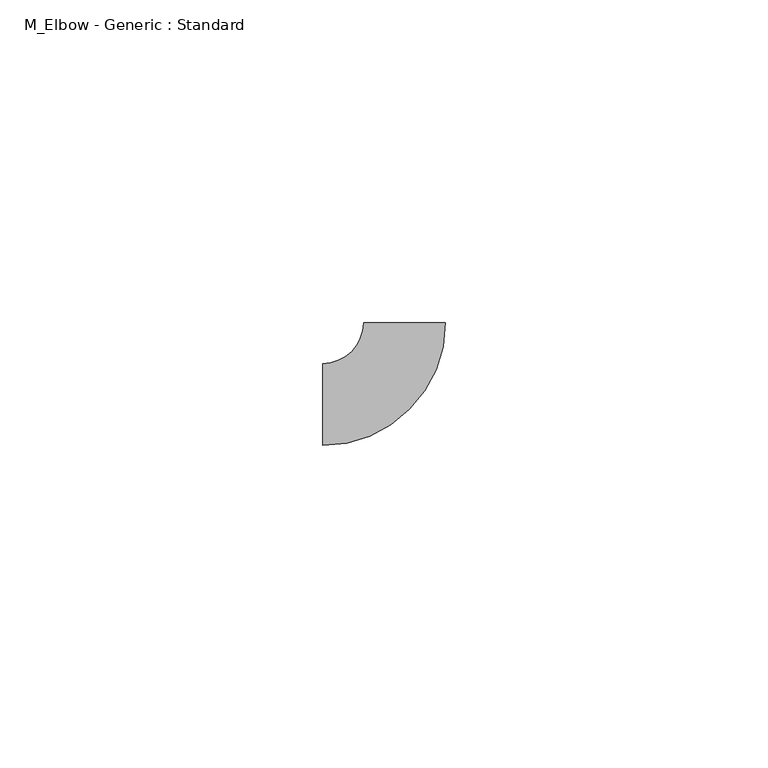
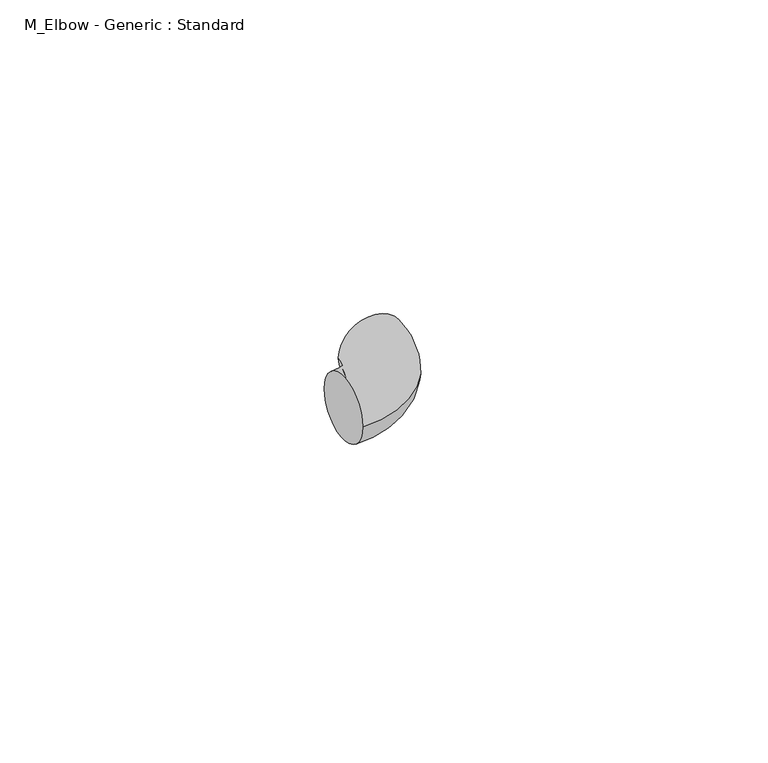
"""IFC4 building model written with IfcOpenShell, lengths in millimetres: pipe fitting geometry, M_Elbow - Generic : Standard."""

from ifc_helpers import new_model, si_unit, point, frame, origin, place, context, project, spatial, circle_curve, ellipse_curve, trimmed, source, transform, mapped, element, save
from ifc_brep_helpers import plane_surface, revolved_surface, advanced_brep


def m_elbow_generic_standard_f0c60a04(model_context):
    return source(origin(), model_context, "Body", "AdvancedBrep", [
        advanced_brep(
        [(-12.6875, -6.3375, 0.0), (-12.6875, 6.3375, 0.0), (6.3375, 12.6875, 0.0), (-6.3375, 12.6875, 0.0)],
        [
            (0, 1, circle_curve(frame((-12.6875, 0.0, 0.0), z_axis=(-1.0, 0.0, 0.0), x_axis=(0.0, 1.0, 0.0)), 6.3375)),
            (1, 0, circle_curve(frame((-12.6875, 0.0, 0.0), z_axis=(-1.0, 0.0, 0.0), x_axis=(0.0, 1.0, 0.0)), 6.3375)),
            (2, 3, circle_curve(frame((0.0, 12.6875, 0.0), z_axis=(0.0, 1.0, 0.0), x_axis=(-1.0, 0.0, 0.0)), 6.3375)),
            (3, 2, circle_curve(frame((0.0, 12.6875, 0.0), z_axis=(0.0, 1.0, 0.0), x_axis=(-1.0, 0.0, 0.0)), 6.3375)),
            (3, 1, circle_curve(frame((-12.6875, 12.6875, 0.0), z_axis=(0.0, 0.0, -1.0), x_axis=(0.0, -1.0, 0.0)), 6.35)),
            (0, 2, circle_curve(frame((-12.6875, 12.6875, 0.0), z_axis=(0.0, 0.0, 1.0), x_axis=(0.0, -1.0, 0.0)), 19.025)),
        ],
        [
            plane_surface(frame((-12.6875, 0.0, 0.0), z_axis=(-1.0, 0.0, 0.0), x_axis=(0.0, 0.0, 1.0))),
            plane_surface(frame((0.0, 12.6875, 0.0), z_axis=(0.0, 1.0, 0.0), x_axis=(0.0, 0.0, 1.0))),
            revolved_surface(trimmed(ellipse_curve(frame((-12.6875, 0.0, 0.0), z_axis=(-1.0, 0.0, 0.0), x_axis=(0.0, 1.0, 0.0)), 6.3375, 6.3375), [point((-12.6875, -6.3375, 0.0))], [point((-12.6875, 6.3375, 0.0))], True, "CARTESIAN"), (-12.6875, 12.6875, 0.0), (0.0, 0.0, 1.0)),
            revolved_surface(trimmed(ellipse_curve(frame((-12.6875, 0.0, 0.0), z_axis=(-1.0, 0.0, 0.0), x_axis=(0.0, 1.0, 0.0)), 6.3375, 6.3375), [point((-12.6875, 6.3375, 0.0))], [point((-12.6875, -6.3375, 0.0))], True, "CARTESIAN"), (-12.6875, 12.6875, 0.0), (0.0, 0.0, 1.0)),
        ],
        [
            (0, [[1, 2]]),
            (1, [[3, 4]]),
            (2, [[5, -1, 6, -4]]),
            (3, [[-6, -2, -5, -3]]),
        ],
    ),
    ])


if __name__ == "__main__":
    model = new_model("IFC4")
    model_context = context("Model", 3, world=origin())
    ifc_project = project(units=[si_unit("LENGTHUNIT", "METRE", prefix="MILLI")], contexts=[model_context])
    site = spatial("IfcSite", under=ifc_project)
    building = spatial("IfcBuilding", under=site)
    placement = place(None, origin())
    m_elbow_generic_standard_shape = m_elbow_generic_standard_f0c60a04(model_context)
    element("IfcPipeFitting", 1, ObjectType="M_Elbow - Generic : Standard", at=placement, inside=building, context=model_context, shape_type="MappedRepresentation", body=[
        mapped(m_elbow_generic_standard_shape, transform((0.0, 0.0, 0.0), x_axis=(1.0, 0.0, 0.0), y_axis=(0.0, 1.0, 0.0), z_axis=(0.0, 0.0, 1.0))),
    ])
    save(model, "model.ifc")
